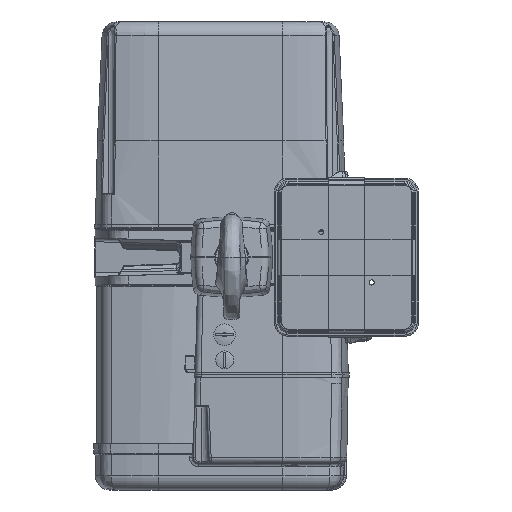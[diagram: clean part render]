
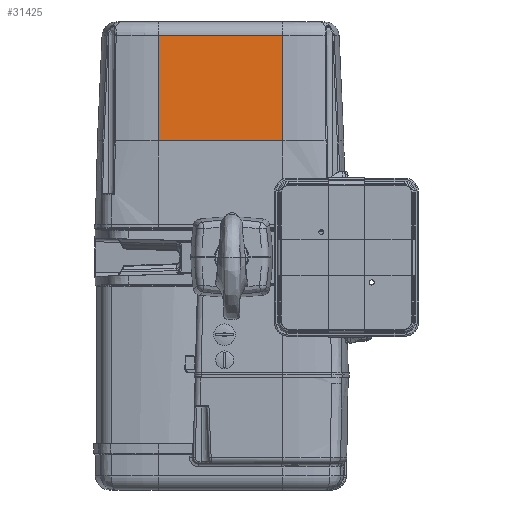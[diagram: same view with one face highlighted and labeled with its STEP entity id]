
A CAD part, front view. The second image highlights one B-rep face of the part: STEP entity #31425.
In plain terms, the highlighted planar face has unit normal (0, -0.999, 0.044).
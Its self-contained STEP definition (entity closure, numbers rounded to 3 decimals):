
#2247=PLANE('',#33665);
#2961=FACE_OUTER_BOUND('',#4833,.T.);
#4833=EDGE_LOOP('',(#21014,#21015,#21016,#21017));
#6757=LINE('',#52446,#8633);
#6777=LINE('',#53341,#8653);
#6778=LINE('',#53367,#8654);
#6779=LINE('',#53368,#8655);
#8633=VECTOR('',#37892,10.);
#8653=VECTOR('',#38100,10.);
#8654=VECTOR('',#38107,10.);
#8655=VECTOR('',#38108,10.);
#12392=VERTEX_POINT('',#52409);
#12395=VERTEX_POINT('',#52444);
#12458=VERTEX_POINT('',#53339);
#12460=VERTEX_POINT('',#53366);
#15528=EDGE_CURVE('',#12395,#12392,#6757,.T.);
#15637=EDGE_CURVE('',#12458,#12392,#6777,.T.);
#15640=EDGE_CURVE('',#12460,#12458,#6778,.T.);
#15641=EDGE_CURVE('',#12460,#12395,#6779,.T.);
#21014=ORIENTED_EDGE('',*,*,#15528,.T.);
#21015=ORIENTED_EDGE('',*,*,#15637,.F.);
#21016=ORIENTED_EDGE('',*,*,#15640,.F.);
#21017=ORIENTED_EDGE('',*,*,#15641,.T.);
#31425=ADVANCED_FACE('',(#2961),#2247,.F.);
#33665=AXIS2_PLACEMENT_3D('',#53365,#38105,#38106);
#37892=DIRECTION('',(-1.,0.,0.));
#38100=DIRECTION('',(0.,0.044,0.999));
#38105=DIRECTION('center_axis',(0.,0.999,
-0.044));
#38106=DIRECTION('ref_axis',(0.,0.044,0.999));
#38107=DIRECTION('',(-1.,0.,0.));
#38108=DIRECTION('',(0.,0.044,0.999));
#52409=CARTESIAN_POINT('',(-96.85,-361.039,307.372));
#52444=CARTESIAN_POINT('',(76.15,-361.039,307.372));
#52446=CARTESIAN_POINT('',(30.517,-361.039,307.372));
#53339=CARTESIAN_POINT('',(-96.85,-367.404,161.587));
#53341=CARTESIAN_POINT('',(-96.85,-367.408,161.5));
#53365=CARTESIAN_POINT('Origin',(-10.35,-367.408,161.5));
#53366=CARTESIAN_POINT('',(76.15,-367.404,161.587));
#53367=CARTESIAN_POINT('',(-10.35,-367.404,161.587));
#53368=CARTESIAN_POINT('',(76.15,-367.408,161.5));
